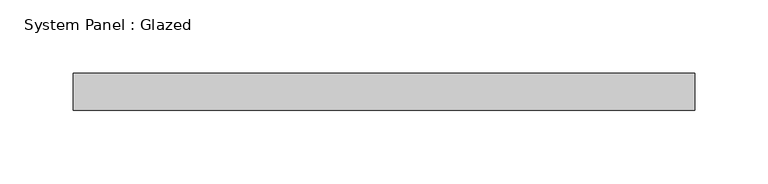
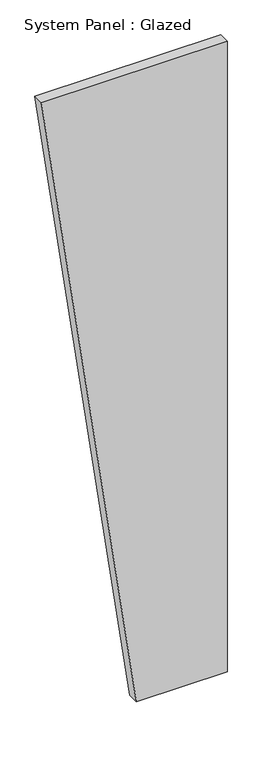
"""IFC4 building model written with IfcOpenShell, lengths in millimetres: plate geometry, System Panel : Glazed."""

from ifc_helpers import new_model, si_unit, frame, origin, place, context, project, spatial, polyline, outline, extrude, source, transform, mapped, element, save


def system_panel_glazed_0d452642(model_context):
    return source(origin(), model_context, "Body", "SweptSolid", [
        extrude(outline(polyline([(0.0, 4.6825141), (0.0, 212.362841), (1524.0, 212.362841), (1524.0, -212.362841), (0.0, 4.6825141)])), frame((0.0, 19.05, 0.0), z_axis=(0.0, 1.0, 0.0), x_axis=(0.0, 0.0, 1.0)), (0.0, 0.0, 1.0), 25.4),
    ])


if __name__ == "__main__":
    model = new_model("IFC4")
    model_context = context("Model", 3, world=origin())
    ifc_project = project(units=[si_unit("LENGTHUNIT", "METRE", prefix="MILLI")], contexts=[model_context])
    site = spatial("IfcSite", under=ifc_project)
    building = spatial("IfcBuilding", under=site)
    placement = place(None, origin())
    system_panel_glazed_shape = system_panel_glazed_0d452642(model_context)
    element("IfcPlate", 1, ObjectType="System Panel : Glazed", at=placement, inside=building, context=model_context, shape_type="MappedRepresentation", body=[
        mapped(system_panel_glazed_shape, transform((0.0, 0.0, 0.0), x_axis=(1.0, 0.0, 0.0), y_axis=(0.0, 1.0, 0.0), z_axis=(0.0, 0.0, 1.0))),
    ])
    save(model, "model.ifc")
